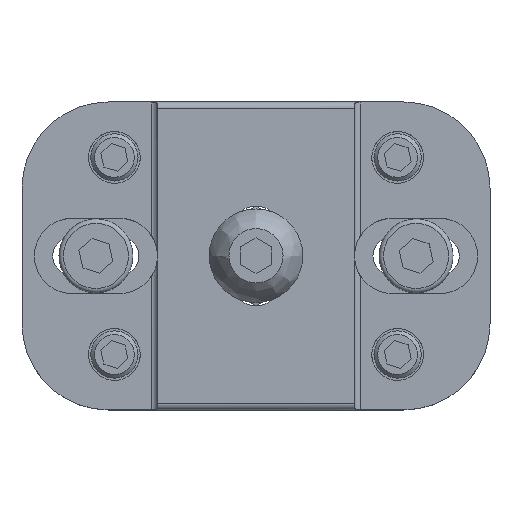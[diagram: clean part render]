
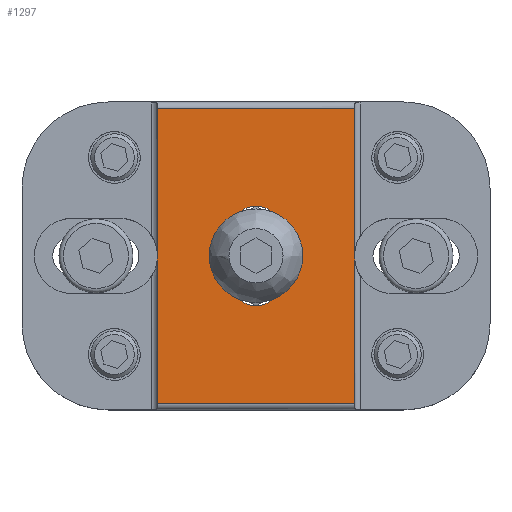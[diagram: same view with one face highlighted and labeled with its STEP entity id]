
A CAD part, top view. The second image highlights one B-rep face of the part: STEP entity #1297.
In plain terms, the highlighted planar face has unit normal (0, 0, 1).
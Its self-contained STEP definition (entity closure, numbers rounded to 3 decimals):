
#909=CIRCLE('',#5302,2.05);
#911=CIRCLE('',#5306,2.05);
#1062=FACE_BOUND('',#1895,.T.);
#1063=FACE_BOUND('',#1896,.T.);
#1297=ADVANCED_FACE('MANIFOLD_SOLID_BREP #40',(#1062,#1063),#1516,.T.);
#1516=PLANE('',#5316);
#1895=EDGE_LOOP('',(#2396,#2397,#2398,#2399,#2400,#2401,#2402,#2403,#2404,
#2405));
#1896=EDGE_LOOP('',(#2406,#2407,#2408,#2409));
#2396=ORIENTED_EDGE('',*,*,#4045,.T.);
#2397=ORIENTED_EDGE('',*,*,#4017,.T.);
#2398=ORIENTED_EDGE('',*,*,#4022,.T.);
#2399=ORIENTED_EDGE('',*,*,#4021,.T.);
#2400=ORIENTED_EDGE('',*,*,#3843,.T.);
#2401=ORIENTED_EDGE('',*,*,#3848,.T.);
#2402=ORIENTED_EDGE('',*,*,#4012,.T.);
#2403=ORIENTED_EDGE('',*,*,#3851,.T.);
#2404=ORIENTED_EDGE('',*,*,#3850,.T.);
#2405=ORIENTED_EDGE('',*,*,#4046,.T.);
#2406=ORIENTED_EDGE('',*,*,#4031,.T.);
#2407=ORIENTED_EDGE('',*,*,#4033,.F.);
#2408=ORIENTED_EDGE('',*,*,#4024,.F.);
#2409=ORIENTED_EDGE('',*,*,#4028,.F.);
#3414=VERTEX_POINT('',#7072);
#3415=VERTEX_POINT('',#7073);
#3419=VERTEX_POINT('',#7101);
#3421=VERTEX_POINT('',#7118);
#3422=VERTEX_POINT('',#7120);
#3423=VERTEX_POINT('',#7122);
#3572=VERTEX_POINT('',#7659);
#3573=VERTEX_POINT('',#7661);
#3575=VERTEX_POINT('',#7685);
#3577=VERTEX_POINT('',#7690);
#3578=VERTEX_POINT('',#7692);
#3580=VERTEX_POINT('',#7698);
#3583=VERTEX_POINT('',#7705);
#3594=VERTEX_POINT('',#7734);
#3843=EDGE_CURVE('',#3414,#3415,#4457,.T.);
#3848=EDGE_CURVE('',#3415,#3419,#4459,.T.);
#3850=EDGE_CURVE('',#3422,#3421,#4460,.T.);
#3851=EDGE_CURVE('',#3423,#3422,#4461,.T.);
#4012=EDGE_CURVE('',#3419,#3423,#4541,.T.);
#4017=EDGE_CURVE('',#3573,#3572,#4544,.T.);
#4021=EDGE_CURVE('',#3575,#3414,#4546,.T.);
#4022=EDGE_CURVE('',#3572,#3575,#4547,.T.);
#4024=EDGE_CURVE('',#3577,#3578,#4549,.T.);
#4028=EDGE_CURVE('',#3580,#3577,#909,.T.);
#4031=EDGE_CURVE('',#3580,#3583,#4554,.T.);
#4033=EDGE_CURVE('',#3578,#3583,#911,.T.);
#4045=EDGE_CURVE('',#3594,#3573,#4560,.T.);
#4046=EDGE_CURVE('',#3421,#3594,#4561,.T.);
#4457=LINE('',#7071,#4835);
#4459=LINE('',#7102,#4837);
#4460=LINE('',#7119,#4838);
#4461=LINE('',#7121,#4839);
#4541=LINE('',#7638,#4919);
#4544=LINE('',#7660,#4922);
#4546=LINE('',#7684,#4924);
#4547=LINE('',#7686,#4925);
#4549=LINE('',#7691,#4927);
#4554=LINE('',#7706,#4932);
#4560=LINE('',#7733,#4938);
#4561=LINE('',#7735,#4939);
#4835=VECTOR('',#5691,1.);
#4837=VECTOR('',#5693,1.);
#4838=VECTOR('',#5696,1.);
#4839=VECTOR('',#5697,1.);
#4919=VECTOR('',#5953,1.);
#4922=VECTOR('',#5960,1.);
#4924=VECTOR('',#5964,1.);
#4925=VECTOR('',#5965,1.);
#4927=VECTOR('',#5969,1.);
#4932=VECTOR('',#5982,1.);
#4938=VECTOR('',#6010,1.);
#4939=VECTOR('',#6011,1.);
#5302=AXIS2_PLACEMENT_3D('',#7700,#5975,#5976);
#5306=AXIS2_PLACEMENT_3D('',#7709,#5986,#5987);
#5316=AXIS2_PLACEMENT_3D('',#7736,#6012,#6013);
#5691=DIRECTION('',(0.,-1.,0.));
#5693=DIRECTION('',(0.,-1.,0.));
#5696=DIRECTION('',(0.,1.,0.));
#5697=DIRECTION('',(0.,1.,0.));
#5953=DIRECTION('',(1.,0.,0.));
#5960=DIRECTION('',(-1.,0.,0.));
#5964=DIRECTION('',(0.,-1.,0.));
#5965=DIRECTION('',(0.,-1.,0.));
#5969=DIRECTION('',(0.,1.,0.));
#5975=DIRECTION('',(0.,0.,1.));
#5976=DIRECTION('',(1.,0.,0.));
#5982=DIRECTION('',(0.,1.,0.));
#5986=DIRECTION('',(0.,0.,1.));
#5987=DIRECTION('',(1.,0.,0.));
#6010=DIRECTION('',(0.,1.,0.));
#6011=DIRECTION('',(0.,1.,0.));
#6012=DIRECTION('',(0.,0.,1.));
#6013=DIRECTION('',(1.,0.,0.));
#7071=CARTESIAN_POINT('',(-8.,15.8,0.));
#7072=CARTESIAN_POINT('',(-8.,0.,0.));
#7073=CARTESIAN_POINT('',(-8.,-1.157,0.));
#7101=CARTESIAN_POINT('',(-8.,-12.,0.));
#7102=CARTESIAN_POINT('',(-8.,-6.578,0.));
#7118=CARTESIAN_POINT('',(8.,0.,0.));
#7119=CARTESIAN_POINT('',(8.,15.8,0.));
#7120=CARTESIAN_POINT('',(8.,-1.157,0.));
#7121=CARTESIAN_POINT('',(8.,15.8,0.));
#7122=CARTESIAN_POINT('',(8.,-12.,0.));
#7638=CARTESIAN_POINT('',(0.,-12.,0.));
#7659=CARTESIAN_POINT('',(-8.,12.,0.));
#7660=CARTESIAN_POINT('',(0.,12.,0.));
#7661=CARTESIAN_POINT('',(8.,12.,0.));
#7684=CARTESIAN_POINT('',(-8.,15.8,0.));
#7685=CARTESIAN_POINT('',(-8.,1.157,0.));
#7686=CARTESIAN_POINT('',(-8.,6.578,0.));
#7690=CARTESIAN_POINT('',(2.05,-2.,0.));
#7691=CARTESIAN_POINT('',(2.05,0.,0.));
#7692=CARTESIAN_POINT('',(2.05,2.,0.));
#7698=CARTESIAN_POINT('',(-2.05,-2.,0.));
#7700=CARTESIAN_POINT('',(0.,-2.,0.));
#7705=CARTESIAN_POINT('',(-2.05,2.,0.));
#7706=CARTESIAN_POINT('',(-2.05,0.,0.));
#7709=CARTESIAN_POINT('',(0.,2.,0.));
#7733=CARTESIAN_POINT('',(8.,15.8,0.));
#7734=CARTESIAN_POINT('',(8.,1.157,0.));
#7735=CARTESIAN_POINT('',(8.,15.8,0.));
#7736=CARTESIAN_POINT('',(9.5,-3.,0.));
